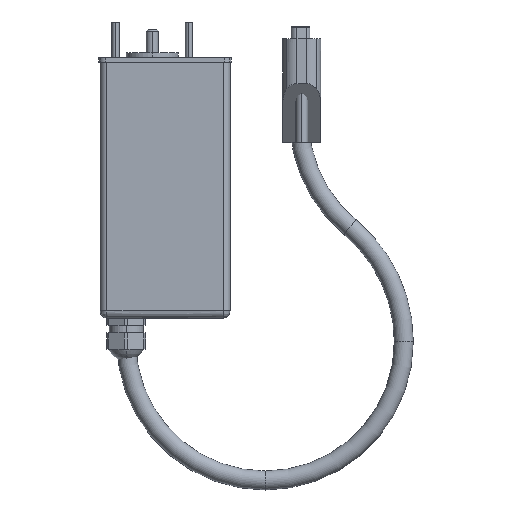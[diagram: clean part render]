
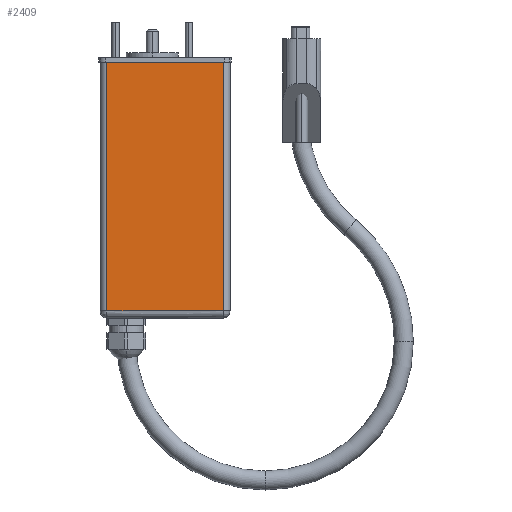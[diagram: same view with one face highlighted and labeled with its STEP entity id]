
A CAD part, left-side view. The second image highlights one B-rep face of the part: STEP entity #2409.
In plain terms, the highlighted planar face has unit normal (-1, 0, 0).
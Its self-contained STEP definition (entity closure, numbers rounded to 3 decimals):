
#2409=ADVANCED_FACE('',(#3936),#3937,.F.);
#3936=FACE_OUTER_BOUND('',#6206,.T.);
#3937=PLANE('',#6207);
#6206=EDGE_LOOP('',(#9200,#9201,#9202,#9203));
#6207=AXIS2_PLACEMENT_3D('',#9204,#9205,#9206);
#9200=ORIENTED_EDGE('',*,*,#11653,.F.);
#9201=ORIENTED_EDGE('',*,*,#10113,.F.);
#9202=ORIENTED_EDGE('',*,*,#11554,.F.);
#9203=ORIENTED_EDGE('',*,*,#10385,.F.);
#9204=CARTESIAN_POINT('',(124.919,-3816.914,108.0));
#9205=DIRECTION('',(1.0,0.0,0.0));
#9206=DIRECTION('',(0.0,0.0,-1.0));
#10113=EDGE_CURVE('',#12264,#12504,#12507,.T.);
#10385=EDGE_CURVE('',#12935,#12439,#12938,.T.);
#11554=EDGE_CURVE('',#12439,#12264,#15124,.T.);
#11653=EDGE_CURVE('',#12504,#12935,#15271,.T.);
#12264=VERTEX_POINT('',#16127);
#12439=VERTEX_POINT('',#16341);
#12504=VERTEX_POINT('',#16420);
#12507=LINE('',#16424,#16425);
#12935=VERTEX_POINT('',#16959);
#12938=LINE('',#16962,#16963);
#15124=LINE('',#21766,#21767);
#15271=LINE('',#21954,#21955);
#16127=CARTESIAN_POINT('',(124.919,-3767.914,3.));
#16341=CARTESIAN_POINT('',(124.919,-3816.914,3.));
#16420=CARTESIAN_POINT('',(124.919,-3767.914,108.0));
#16424=CARTESIAN_POINT('',(124.919,-3767.914,55.0));
#16425=VECTOR('',#23142,1.);
#16959=CARTESIAN_POINT('',(124.919,-3816.914,108.0));
#16962=CARTESIAN_POINT('',(124.919,-3816.914,55.0));
#16963=VECTOR('',#23494,1.);
#21766=CARTESIAN_POINT('',(124.919,-3792.414,3.));
#21767=VECTOR('',#23912,0.98);
#21954=CARTESIAN_POINT('',(124.919,-3792.414,108.0));
#21955=VECTOR('',#24019,0.98);
#23142=DIRECTION('',(0.0,0.0,1.0));
#23494=DIRECTION('',(0.0,0.0,-1.0));
#23912=DIRECTION('',(0.0,1.0,0.0));
#24019=DIRECTION('',(0.0,-1.0,0.0));
